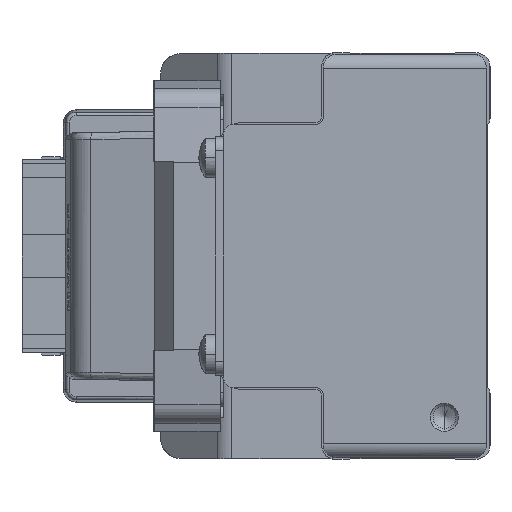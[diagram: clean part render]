
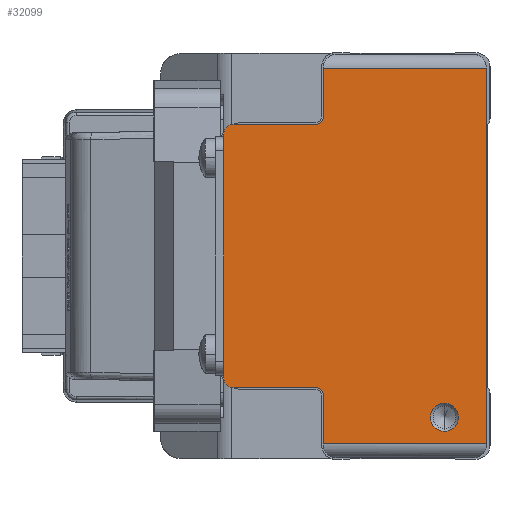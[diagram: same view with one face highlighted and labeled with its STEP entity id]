
A CAD part, left-side view. The second image highlights one B-rep face of the part: STEP entity #32099.
In plain terms, the highlighted planar face has unit normal (-1, 0, 0) as drawn and (0, 0, 1) by its records, which use the part's own axes.
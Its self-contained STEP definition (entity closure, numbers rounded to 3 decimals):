
#358 = CARTESIAN_POINT ( 'NONE',  ( -18.8, 36.5, 270. ) ) ;
#1038 = AXIS2_PLACEMENT_3D ( 'NONE', #15681, #9049, #2079 ) ;
#2079 = DIRECTION ( 'NONE',  ( 1., 0., 0. ) ) ;
#2897 = EDGE_CURVE ( 'NONE', #15875, #9128, #40809, .T. ) ;
#2982 = CARTESIAN_POINT ( 'NONE',  ( 26.8, 23.8, 270. ) ) ;
#3062 = CARTESIAN_POINT ( 'NONE',  ( -23., 6.5, 270. ) ) ;
#3126 = CARTESIAN_POINT ( 'NONE',  ( 17.3, 36.5, 270. ) ) ;
#3160 = DIRECTION ( 'NONE',  ( 0., 0., -1. ) ) ;
#4512 = DIRECTION ( 'NONE',  ( 0., -1., 0. ) ) ;
#5317 = CIRCLE ( 'NONE', #7380, 1.5 ) ;
#6227 = EDGE_CURVE ( 'NONE', #11177, #12229, #19882, .T. ) ;
#6791 = DIRECTION ( 'NONE',  ( 0., 0., 1. ) ) ;
#7024 = AXIS2_PLACEMENT_3D ( 'NONE', #29901, #23289, #32784 ) ;
#7380 = AXIS2_PLACEMENT_3D ( 'NONE', #40283, #10052, #36974 ) ;
#7425 = VECTOR ( 'NONE', #24056, 1000. ) ;
#7536 = CARTESIAN_POINT ( 'NONE',  ( -18.8, 36.5, 270. ) ) ;
#7627 = VERTEX_POINT ( 'NONE', #7801 ) ;
#7801 = CARTESIAN_POINT ( 'NONE',  ( -19.8, 23.8, 270. ) ) ;
#8640 = DIRECTION ( 'NONE',  ( 0., 1., 0. ) ) ;
#8928 = CARTESIAN_POINT ( 'NONE',  ( 18.8, 24.8, 270. ) ) ;
#8955 = CARTESIAN_POINT ( 'NONE',  ( -18.8, 24.8, 270. ) ) ;
#9049 = DIRECTION ( 'NONE',  ( 0., 0., 1. ) ) ;
#9128 = VERTEX_POINT ( 'NONE', #8955 ) ;
#9302 = DIRECTION ( 'NONE',  ( -1., 0., 0. ) ) ;
#9476 = CARTESIAN_POINT ( 'NONE',  ( -23., 6.5, 270. ) ) ;
#9764 = CARTESIAN_POINT ( 'NONE',  ( -21., 6.5, 270. ) ) ;
#9861 = EDGE_CURVE ( 'NONE', #11177, #37547, #18574, .T. ) ;
#10052 = DIRECTION ( 'NONE',  ( 0., 0., 1. ) ) ;
#10085 = AXIS2_PLACEMENT_3D ( 'NONE', #9476, #3160, #43441 ) ;
#10881 = ORIENTED_EDGE ( 'NONE', *, *, #19769, .T. ) ;
#11177 = VERTEX_POINT ( 'NONE', #14053 ) ;
#11704 = CARTESIAN_POINT ( 'NONE',  ( 26.8, 24., 270. ) ) ;
#12229 = VERTEX_POINT ( 'NONE', #24410 ) ;
#13087 = VECTOR ( 'NONE', #9302, 1000. ) ;
#13461 = VECTOR ( 'NONE', #23425, 1000. ) ;
#14053 = CARTESIAN_POINT ( 'NONE',  ( 26.8, 23.8, 270. ) ) ;
#15039 = EDGE_CURVE ( 'NONE', #41132, #42169, #30912, .T. ) ;
#15610 = CARTESIAN_POINT ( 'NONE',  ( 17.3, 38., 270. ) ) ;
#15681 = CARTESIAN_POINT ( 'NONE',  ( -19.8, 24.8, 270. ) ) ;
#15703 = VECTOR ( 'NONE', #4512, 1000. ) ;
#15875 = VERTEX_POINT ( 'NONE', #7536 ) ;
#16457 = FACE_OUTER_BOUND ( 'NONE', #19058, .T. ) ;
#16649 = DIRECTION ( 'NONE',  ( -1., 0., 0. ) ) ;
#16981 = CARTESIAN_POINT ( 'NONE',  ( 26.8, 0.5, 270. ) ) ;
#17094 = DIRECTION ( 'NONE',  ( 0., 0., -1. ) ) ;
#17136 = ORIENTED_EDGE ( 'NONE', *, *, #41688, .T. ) ;
#17639 = LINE ( 'NONE', #35271, #35623 ) ;
#17778 = ORIENTED_EDGE ( 'NONE', *, *, #22963, .T. ) ;
#17832 = CIRCLE ( 'NONE', #10085, 2. ) ;
#17844 = DIRECTION ( 'NONE',  ( -1., 0., 0. ) ) ;
#18330 = EDGE_CURVE ( 'NONE', #27160, #27972, #35224, .T. ) ;
#18574 = LINE ( 'NONE', #11704, #15703 ) ;
#19058 = EDGE_LOOP ( 'NONE', ( #33259, #28706, #40855, #41149, #30790, #31240, #20590, #24561, #17136, #10881, #20849, #35191 ) ) ;
#19324 = FACE_BOUND ( 'NONE', #31399, .T. ) ;
#19769 = EDGE_CURVE ( 'NONE', #29372, #27160, #30950, .T. ) ;
#19882 = LINE ( 'NONE', #2982, #13087 ) ;
#19982 = ORIENTED_EDGE ( 'NONE', *, *, #42490, .T. ) ;
#20316 = CARTESIAN_POINT ( 'NONE',  ( -26.8, 24., 270. ) ) ;
#20566 = CARTESIAN_POINT ( 'NONE',  ( 17.3, 38., 270. ) ) ;
#20590 = ORIENTED_EDGE ( 'NONE', *, *, #6227, .T. ) ;
#20849 = ORIENTED_EDGE ( 'NONE', *, *, #18330, .T. ) ;
#21174 = LINE ( 'NONE', #35071, #25815 ) ;
#22963 = EDGE_CURVE ( 'NONE', #23736, #28789, #17832, .T. ) ;
#23289 = DIRECTION ( 'NONE',  ( 0., 0., 1. ) ) ;
#23425 = DIRECTION ( 'NONE',  ( 0., -1., 0. ) ) ;
#23736 = VERTEX_POINT ( 'NONE', #33972 ) ;
#24005 = AXIS2_PLACEMENT_3D ( 'NONE', #38550, #35677, #28828 ) ;
#24056 = DIRECTION ( 'NONE',  ( 0., -1., 0. ) ) ;
#24410 = CARTESIAN_POINT ( 'NONE',  ( 19.8, 23.8, 270. ) ) ;
#24561 = ORIENTED_EDGE ( 'NONE', *, *, #39174, .F. ) ;
#24620 = AXIS2_PLACEMENT_3D ( 'NONE', #3126, #6791, #37236 ) ;
#25077 = DIRECTION ( 'NONE',  ( -1., 0., 0. ) ) ;
#25815 = VECTOR ( 'NONE', #8640, 1000. ) ;
#26418 = CARTESIAN_POINT ( 'NONE',  ( -26.8, 0.5, 270. ) ) ;
#27160 = VERTEX_POINT ( 'NONE', #20566 ) ;
#27972 = VERTEX_POINT ( 'NONE', #30927 ) ;
#28131 = VECTOR ( 'NONE', #25077, 1000. ) ;
#28497 = EDGE_CURVE ( 'NONE', #7627, #41132, #17639, .T. ) ;
#28706 = ORIENTED_EDGE ( 'NONE', *, *, #33229, .F. ) ;
#28789 = VERTEX_POINT ( 'NONE', #9764 ) ;
#28828 = DIRECTION ( 'NONE',  ( 1., 0., 0. ) ) ;
#29226 = CARTESIAN_POINT ( 'NONE',  ( -26.8, 0.5, 270. ) ) ;
#29372 = VERTEX_POINT ( 'NONE', #41422 ) ;
#29696 = PLANE ( 'NONE',  #7024 ) ;
#29901 = CARTESIAN_POINT ( 'NONE',  ( -26.8, 21.8, 270. ) ) ;
#30790 = ORIENTED_EDGE ( 'NONE', *, *, #39570, .T. ) ;
#30912 = LINE ( 'NONE', #20316, #13461 ) ;
#30927 = CARTESIAN_POINT ( 'NONE',  ( -17.3, 38., 270. ) ) ;
#30950 = CIRCLE ( 'NONE', #24620, 1.5 ) ;
#31240 = ORIENTED_EDGE ( 'NONE', *, *, #9861, .F. ) ;
#31399 = EDGE_LOOP ( 'NONE', ( #17778, #19982 ) ) ;
#31805 = VECTOR ( 'NONE', #33194, 1000. ) ;
#32099 = ADVANCED_FACE ( 'NONE', ( #19324, #16457 ), #29696, .T. ) ;
#32556 = LINE ( 'NONE', #29226, #31805 ) ;
#32784 = DIRECTION ( 'NONE',  ( 1., 0., 0. ) ) ;
#33194 = DIRECTION ( 'NONE',  ( 1., 0., 0. ) ) ;
#33229 = EDGE_CURVE ( 'NONE', #7627, #9128, #39695, .T. ) ;
#33259 = ORIENTED_EDGE ( 'NONE', *, *, #2897, .T. ) ;
#33972 = CARTESIAN_POINT ( 'NONE',  ( -25., 6.5, 270. ) ) ;
#35071 = CARTESIAN_POINT ( 'NONE',  ( 18.8, 24.8, 270. ) ) ;
#35191 = ORIENTED_EDGE ( 'NONE', *, *, #40502, .T. ) ;
#35224 = LINE ( 'NONE', #15610, #28131 ) ;
#35271 = CARTESIAN_POINT ( 'NONE',  ( -19.8, 23.8, 270. ) ) ;
#35623 = VECTOR ( 'NONE', #17844, 1000. ) ;
#35677 = DIRECTION ( 'NONE',  ( 0., 0., 1. ) ) ;
#36974 = DIRECTION ( 'NONE',  ( 1., 0., 0. ) ) ;
#37236 = DIRECTION ( 'NONE',  ( 1., 0., 0. ) ) ;
#37547 = VERTEX_POINT ( 'NONE', #16981 ) ;
#38550 = CARTESIAN_POINT ( 'NONE',  ( 19.8, 24.8, 270. ) ) ;
#38803 = VERTEX_POINT ( 'NONE', #8928 ) ;
#39174 = EDGE_CURVE ( 'NONE', #38803, #12229, #43030, .T. ) ;
#39570 = EDGE_CURVE ( 'NONE', #42169, #37547, #32556, .T. ) ;
#39695 = CIRCLE ( 'NONE', #1038, 1. ) ;
#40283 = CARTESIAN_POINT ( 'NONE',  ( -17.3, 36.5, 270. ) ) ;
#40502 = EDGE_CURVE ( 'NONE', #27972, #15875, #5317, .T. ) ;
#40543 = CARTESIAN_POINT ( 'NONE',  ( -26.8, 23.8, 270. ) ) ;
#40809 = LINE ( 'NONE', #358, #7425 ) ;
#40855 = ORIENTED_EDGE ( 'NONE', *, *, #28497, .T. ) ;
#41132 = VERTEX_POINT ( 'NONE', #40543 ) ;
#41149 = ORIENTED_EDGE ( 'NONE', *, *, #15039, .T. ) ;
#41422 = CARTESIAN_POINT ( 'NONE',  ( 18.8, 36.5, 270. ) ) ;
#41688 = EDGE_CURVE ( 'NONE', #38803, #29372, #21174, .T. ) ;
#42032 = CIRCLE ( 'NONE', #43473, 2. ) ;
#42169 = VERTEX_POINT ( 'NONE', #26418 ) ;
#42490 = EDGE_CURVE ( 'NONE', #28789, #23736, #42032, .T. ) ;
#43030 = CIRCLE ( 'NONE', #24005, 1. ) ;
#43441 = DIRECTION ( 'NONE',  ( -1., 0., 0. ) ) ;
#43473 = AXIS2_PLACEMENT_3D ( 'NONE', #3062, #17094, #16649 ) ;
